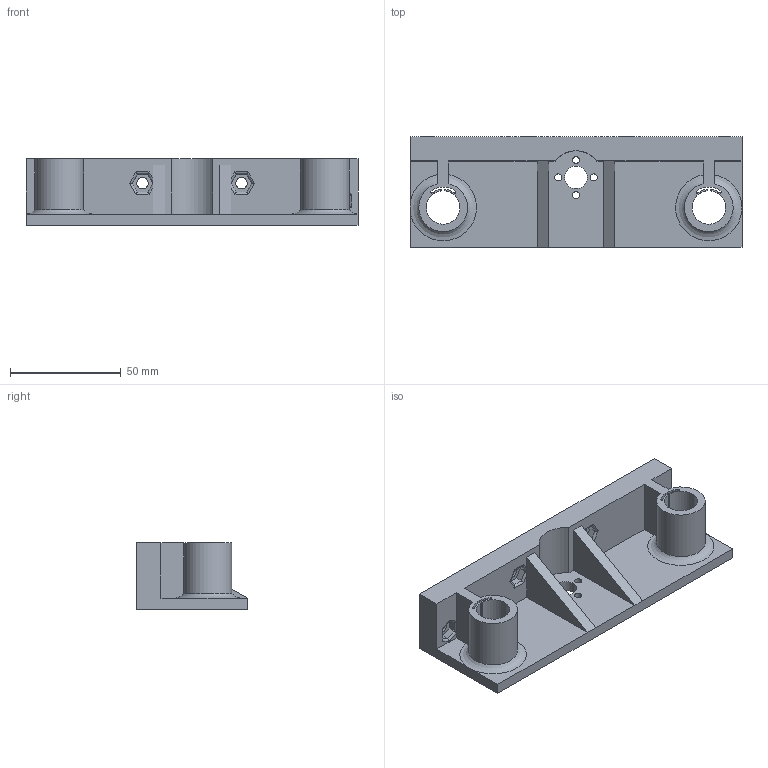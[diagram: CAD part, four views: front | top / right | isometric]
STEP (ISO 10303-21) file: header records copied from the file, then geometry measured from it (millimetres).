
FILE_DESCRIPTION(/* description */ (''),/* implementation_level */ '2;1');
FILE_NAME(/* name */ 'C:/Users/longl/OneDrive/Documents/OpenBox Builds/Parts/Z-Axis/Bed Attachment Plate/Bed Attachment Plate.step',/* time_stamp */ '2021-08-11T16:37:19-04:00',/* author */ (''),/* organization */ (''),/* preprocessor_version */ 'ST-DEVELOPER v18.1',/* originating_system */ 'Autodesk Translation Framework v10.9.0.1377',/* authorisation */ '');
FILE_SCHEMA (('AUTOMOTIVE_DESIGN { 1 0 10303 214 3 1 1 }'));
Length unit declared in the file: millimetre
Products named in the file (1): Bed Attachment Plate
Bounding box: 150 x 50.01 x 30 mm (x, y, z)
Volume: 89727.7 mm3; surface area: 34851.9 mm2
Topology: 1 solids, 1 shells, 115 faces, 312 edges, 199 vertices
Faces by surface type: plane 61, cylinder 50, torus 4
Full cylindrical faces by diameter (mm): 3.2 x3, 5.2 x4, 10.2 x1
Entity records: 3787 total; most frequent: CARTESIAN_POINT 784, ORIENTED_EDGE 624, DIRECTION 615, EDGE_CURVE 312, LINE 207, VECTOR 207, AXIS2_PLACEMENT_3D 204, VERTEX_POINT 199
